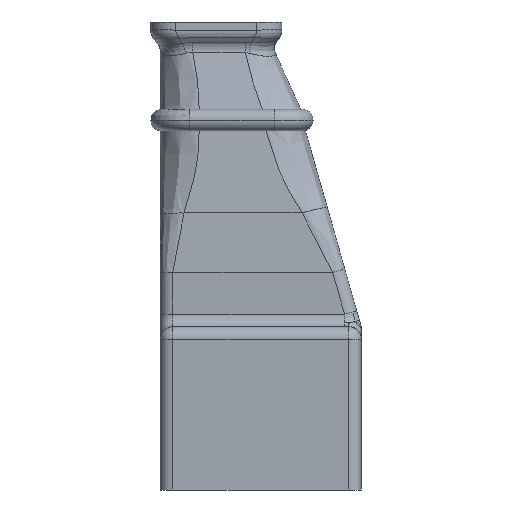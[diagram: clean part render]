
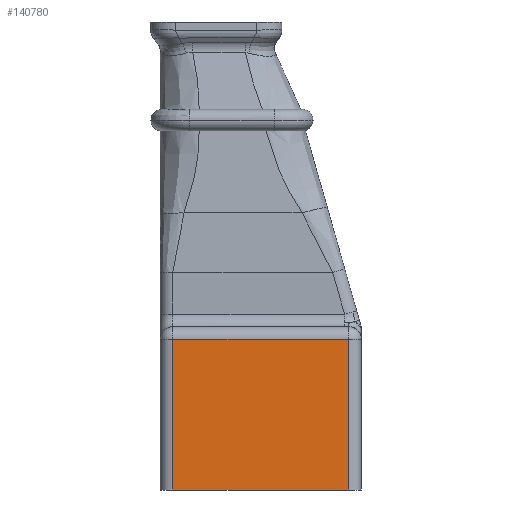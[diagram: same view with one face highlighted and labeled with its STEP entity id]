
A CAD part, left-side view. The second image highlights one B-rep face of the part: STEP entity #140780.
In plain terms, the highlighted planar face has unit normal (-1, 0, 0).
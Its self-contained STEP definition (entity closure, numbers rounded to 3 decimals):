
#140390=CARTESIAN_POINT('',(-67.,27.8,0.734));
#140400=DIRECTION('',(-1.,0.,0.));
#140410=DIRECTION('',(0.,1.,0.));
#140420=AXIS2_PLACEMENT_3D('',#140390,#140400,#140410);
#140430=PLANE('',#140420);
#140440=CARTESIAN_POINT('',(-67.,42.9,21.873));
#140450=DIRECTION('',(0.,-1.,0.));
#140460=VECTOR('',#140450,1.);
#140470=LINE('',#140440,#140460);
#140480=CARTESIAN_POINT('',(-67.,57.,21.873));
#140490=VERTEX_POINT('',#140480);
#140500=CARTESIAN_POINT('',(-67.,28.8,21.873));
#140510=VERTEX_POINT('',#140500);
#140520=EDGE_CURVE('',#140490,#140510,#140470,.T.);
#140530=ORIENTED_EDGE('',*,*,#140520,.F.);
#140540=CARTESIAN_POINT('',(-67.,28.8,0.734));
#140550=DIRECTION('',(0.,0.,1.));
#140560=VECTOR('',#140550,1.);
#140570=LINE('',#140540,#140560);
#140580=CARTESIAN_POINT('',(-67.,28.8,-2.266));
#140590=VERTEX_POINT('',#140580);
#140600=EDGE_CURVE('',#140590,#140510,#140570,.T.);
#140610=ORIENTED_EDGE('',*,*,#140600,.T.);
#140620=CARTESIAN_POINT('',(-67.,27.8,-2.266));
#140630=DIRECTION('',(0.,1.,0.));
#140640=VECTOR('',#140630,1.);
#140650=LINE('',#140620,#140640);
#140660=CARTESIAN_POINT('',(-67.,57.,-2.266));
#140670=VERTEX_POINT('',#140660);
#140680=EDGE_CURVE('',#140590,#140670,#140650,.T.);
#140690=ORIENTED_EDGE('',*,*,#140680,.F.);
#140700=CARTESIAN_POINT('',(-67.,57.,17.538));
#140710=DIRECTION('',(0.,0.,-1.));
#140720=VECTOR('',#140710,1.);
#140730=LINE('',#140700,#140720);
#140740=EDGE_CURVE('',#140490,#140670,#140730,.T.);
#140750=ORIENTED_EDGE('',*,*,#140740,.T.);
#140760=EDGE_LOOP('',(#140750,#140690,#140610,#140530));
#140770=FACE_OUTER_BOUND('',#140760,.T.);
#140780=ADVANCED_FACE('',(#140770),#140430,.T.);
